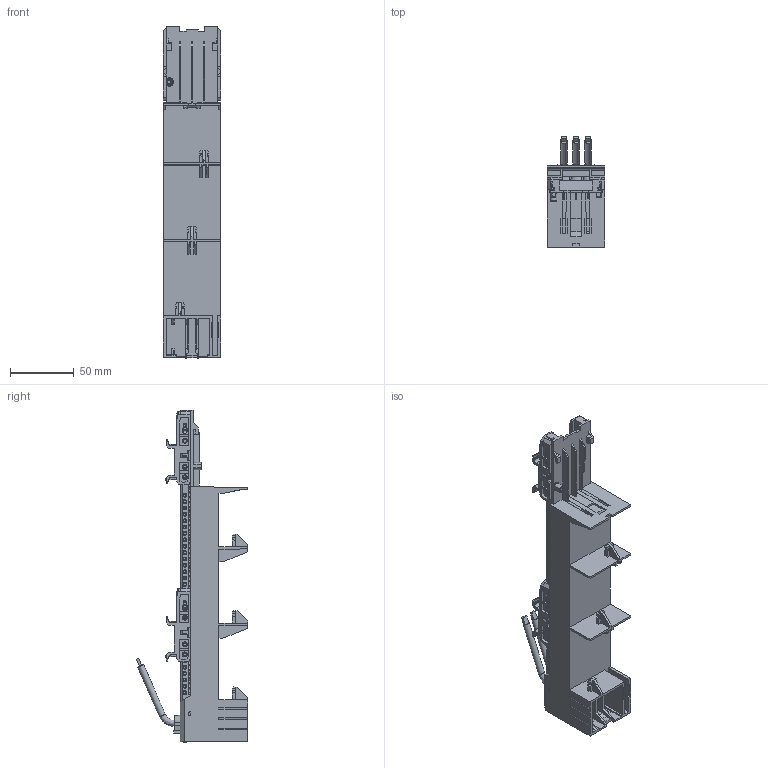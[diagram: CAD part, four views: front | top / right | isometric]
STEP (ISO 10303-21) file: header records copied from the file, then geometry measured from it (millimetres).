
FILE_DESCRIPTION (( 'STEP AP203' ), '1' );
FILE_NAME ('55346.STEP', '2021-08-17T00:48:19', ( '' ), ( '' ), 'SwSTEP 2.0', 'SolidWorks 2017', '' );
FILE_SCHEMA (( 'CONFIG_CONTROL_DESIGN' ));
Products named in the file (2): 55346
Bounding box: 45.01 x 87.2 x 260.7 mm (x, y, z)
Volume: 268683.7 mm3; surface area: 96635.5 mm2
Topology: 6 solids, 15 shells, 2562 faces, 7151 edges, 4811 vertices
Faces by surface type: plane 1557, cylinder 769, cone 214, bspline 21, torus 1
Full cylindrical faces by diameter (mm): 1.988 x174, 2.584 x1, 2.779 x8, 2.882 x12, 2.982 x174, 4.864 x8, 5 x6, 5.169 x2
Entity records: 93037 total; most frequent: CARTESIAN_POINT 32909, ORIENTED_EDGE 12778, DIRECTION 10621, EDGE_CURVE 6389, VERTEX_POINT 4624, LINE 3769, VECTOR 3769, EDGE_LOOP 3439
